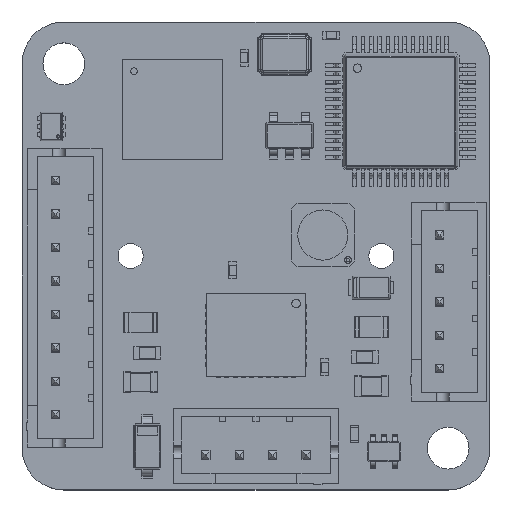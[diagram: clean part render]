
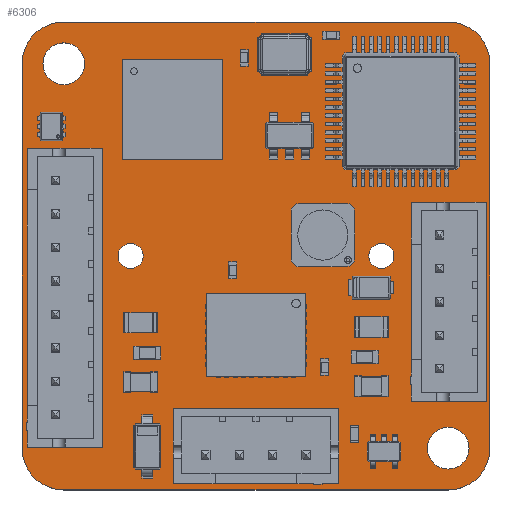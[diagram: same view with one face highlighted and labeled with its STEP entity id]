
A CAD part, top view. The second image highlights one B-rep face of the part: STEP entity #6306.
In plain terms, the highlighted planar face has unit normal (0, 0, 1).
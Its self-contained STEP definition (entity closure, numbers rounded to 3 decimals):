
#6306=ADVANCED_FACE('',(#14667,#14668,#14669,#14670,#14671),#14672,.T.);
#14667=FACE_BOUND('',#25908,.T.);
#14668=FACE_BOUND('',#25909,.T.);
#14669=FACE_BOUND('',#25910,.T.);
#14670=FACE_BOUND('',#25911,.T.);
#14671=FACE_OUTER_BOUND('',#25912,.T.);
#14672=PLANE('',#25913);
#25908=EDGE_LOOP('',(#38848));
#25909=EDGE_LOOP('',(#38849));
#25910=EDGE_LOOP('',(#38850));
#25911=EDGE_LOOP('',(#38851));
#25912=EDGE_LOOP('',(#38852,#38853,#38854,#38855,#38856,#38857,#38858,#38859));
#25913=AXIS2_PLACEMENT_3D('',#38860,#38861,#38862);
#38848=ORIENTED_EDGE('',*,*,#69892,.T.);
#38849=ORIENTED_EDGE('',*,*,#69895,.T.);
#38850=ORIENTED_EDGE('',*,*,#69898,.T.);
#38851=ORIENTED_EDGE('',*,*,#69901,.T.);
#38852=ORIENTED_EDGE('',*,*,#69904,.T.);
#38853=ORIENTED_EDGE('',*,*,#69905,.T.);
#38854=ORIENTED_EDGE('',*,*,#69906,.T.);
#38855=ORIENTED_EDGE('',*,*,#69907,.T.);
#38856=ORIENTED_EDGE('',*,*,#69908,.T.);
#38857=ORIENTED_EDGE('',*,*,#69909,.T.);
#38858=ORIENTED_EDGE('',*,*,#69910,.T.);
#38859=ORIENTED_EDGE('',*,*,#69911,.T.);
#38860=CARTESIAN_POINT('',(14.0,14.0,1.47));
#38861=DIRECTION('',(0.,0.,1.0));
#38862=DIRECTION('',(1.0,0.0,0.));
#69892=EDGE_CURVE('',#82166,#82166,#82167,.T.);
#69895=EDGE_CURVE('',#82171,#82171,#82172,.T.);
#69898=EDGE_CURVE('',#82176,#82176,#82177,.T.);
#69901=EDGE_CURVE('',#82181,#82181,#82182,.T.);
#69904=EDGE_CURVE('',#82186,#82187,#82188,.T.);
#69905=EDGE_CURVE('',#82187,#82189,#82190,.T.);
#69906=EDGE_CURVE('',#82189,#82191,#82192,.T.);
#69907=EDGE_CURVE('',#82191,#82193,#82194,.T.);
#69908=EDGE_CURVE('',#82193,#82195,#82196,.T.);
#69909=EDGE_CURVE('',#82195,#82197,#82198,.T.);
#69910=EDGE_CURVE('',#82197,#82199,#82200,.T.);
#69911=EDGE_CURVE('',#82199,#82186,#82201,.T.);
#82166=VERTEX_POINT('',#100069);
#82167=CIRCLE('',#100070,1.25);
#82171=VERTEX_POINT('',#100074);
#82172=CIRCLE('',#100075,1.25);
#82176=VERTEX_POINT('',#100079);
#82177=CIRCLE('',#100080,0.75);
#82181=VERTEX_POINT('',#100084);
#82182=CIRCLE('',#100085,0.75);
#82186=VERTEX_POINT('',#100089);
#82187=VERTEX_POINT('',#100090);
#82188=CIRCLE('',#100091,2.5);
#82189=VERTEX_POINT('',#100092);
#82190=LINE('',#100093,#100094);
#82191=VERTEX_POINT('',#100095);
#82192=CIRCLE('',#100096,2.5);
#82193=VERTEX_POINT('',#100097);
#82194=LINE('',#100098,#100099);
#82195=VERTEX_POINT('',#100100);
#82196=CIRCLE('',#100101,2.5);
#82197=VERTEX_POINT('',#100102);
#82198=LINE('',#100103,#100104);
#82199=VERTEX_POINT('',#100105);
#82200=CIRCLE('',#100106,2.5);
#82201=LINE('',#100107,#100108);
#100069=CARTESIAN_POINT('',(1.25,25.5,1.47));
#100070=AXIS2_PLACEMENT_3D('',#126069,#126070,#126071);
#100074=CARTESIAN_POINT('',(24.25,2.5,1.47));
#100075=AXIS2_PLACEMENT_3D('',#126075,#126076,#126077);
#100079=CARTESIAN_POINT('',(5.75,14.0,1.47));
#100080=AXIS2_PLACEMENT_3D('',#126081,#126082,#126083);
#100084=CARTESIAN_POINT('',(20.75,14.0,1.47));
#100085=AXIS2_PLACEMENT_3D('',#126087,#126088,#126089);
#100089=CARTESIAN_POINT('',(0.,2.5,1.47));
#100090=CARTESIAN_POINT('',(2.5,0.,1.47));
#100091=AXIS2_PLACEMENT_3D('',#126093,#126094,#126095);
#100092=CARTESIAN_POINT('',(25.5,0.,1.47));
#100093=CARTESIAN_POINT('',(14.0,0.,1.47));
#100094=VECTOR('',#126096,1.0);
#100095=CARTESIAN_POINT('',(28.0,2.5,1.47));
#100096=AXIS2_PLACEMENT_3D('',#126097,#126098,#126099);
#100097=CARTESIAN_POINT('',(28.0,25.5,1.47));
#100098=CARTESIAN_POINT('',(28.0,14.0,1.47));
#100099=VECTOR('',#126100,1.0);
#100100=CARTESIAN_POINT('',(25.5,28.0,1.47));
#100101=AXIS2_PLACEMENT_3D('',#126101,#126102,#126103);
#100102=CARTESIAN_POINT('',(2.5,28.0,1.47));
#100103=CARTESIAN_POINT('',(14.0,28.0,1.47));
#100104=VECTOR('',#126104,1.0);
#100105=CARTESIAN_POINT('',(0.,25.5,1.47));
#100106=AXIS2_PLACEMENT_3D('',#126105,#126106,#126107);
#100107=CARTESIAN_POINT('',(0.,14.0,1.47));
#100108=VECTOR('',#126108,1.0);
#126069=CARTESIAN_POINT('',(2.5,25.5,1.47));
#126070=DIRECTION('',(0.,0.,-1.0));
#126071=DIRECTION('',(-1.0,0.,0.));
#126075=CARTESIAN_POINT('',(25.5,2.5,1.47));
#126076=DIRECTION('',(0.,0.,-1.0));
#126077=DIRECTION('',(-1.0,0.,0.));
#126081=CARTESIAN_POINT('',(6.5,14.0,1.47));
#126082=DIRECTION('',(0.,0.,-1.0));
#126083=DIRECTION('',(-1.0,0.,0.));
#126087=CARTESIAN_POINT('',(21.5,14.0,1.47));
#126088=DIRECTION('',(0.,0.,-1.0));
#126089=DIRECTION('',(-1.0,0.,0.));
#126093=CARTESIAN_POINT('',(2.5,2.5,1.47));
#126094=DIRECTION('',(0.0,0.0,1.0));
#126095=DIRECTION('',(-1.0,0.0,0.0));
#126096=DIRECTION('',(1.0,0.0,0.0));
#126097=CARTESIAN_POINT('',(25.5,2.5,1.47));
#126098=DIRECTION('',(0.0,0.0,1.0));
#126099=DIRECTION('',(0.0,-1.0,0.0));
#126100=DIRECTION('',(0.0,1.0,0.0));
#126101=CARTESIAN_POINT('',(25.5,25.5,1.47));
#126102=DIRECTION('',(0.0,0.0,1.0));
#126103=DIRECTION('',(1.0,0.0,0.0));
#126104=DIRECTION('',(-1.0,0.0,0.0));
#126105=CARTESIAN_POINT('',(2.5,25.5,1.47));
#126106=DIRECTION('',(0.0,-0.0,1.0));
#126107=DIRECTION('',(0.0,1.0,0.0));
#126108=DIRECTION('',(0.0,-1.0,0.0));
